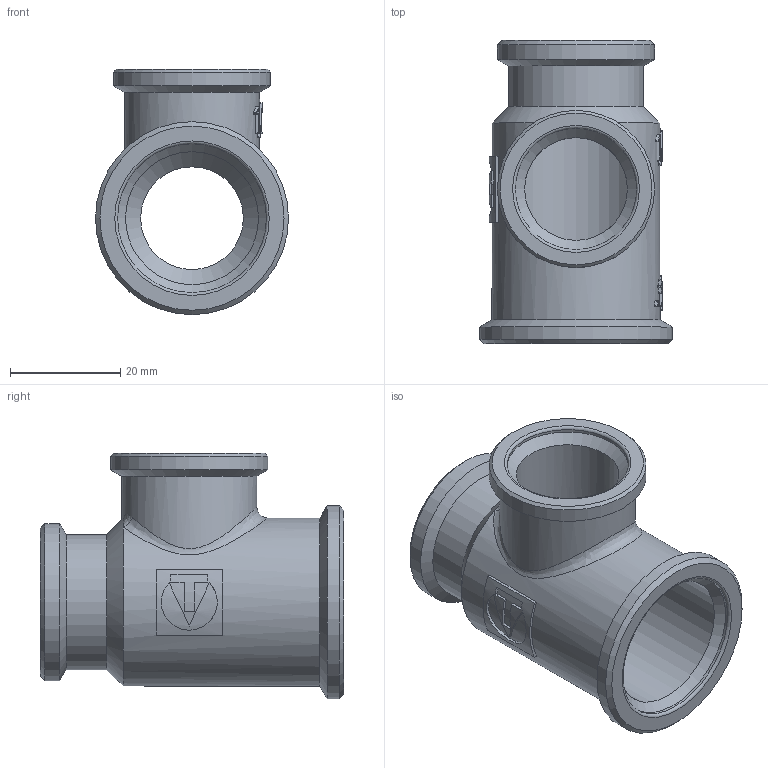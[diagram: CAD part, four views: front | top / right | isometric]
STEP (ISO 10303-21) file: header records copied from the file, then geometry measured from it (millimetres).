
FILE_DESCRIPTION(('STEP AP203'), '1');
FILE_NAME('ÂÐ.752243.014 - VTr.750.RN.050404 - Ôèò. ðåçüá. òðîé', '2024-07-15T10:00:25', ('Boss'), (''), 'C3D Converter', 'C3D Toolkit', '');
FILE_SCHEMA(('CONFIG_CONTROL_DESIGN'));
Length unit declared in the file: millimetre
Products named in the file (1): ВР.752243.014
Bounding box: 35 x 55 x 44.5 mm (x, y, z)
Volume: 17789 mm3; surface area: 11914.7 mm2
Topology: 1 solids, 1 shells, 331 faces, 914 edges, 601 vertices
Faces by surface type: extrusion 185, plane 98, cylinder 31, cone 11, torus 3, bspline 3
Full cylindrical faces by diameter (mm): 18.632 x2, 22 x2, 24.118 x1, 24.5 x2, 27 x1, 28.5 x2, 30.5 x1, 35 x1
Entity records: 15227 total; most frequent: CARTESIAN_POINT 7909, ORIENTED_EDGE 1772, DIRECTION 932, EDGE_CURVE 886, VERTEX_POINT 601, B_SPLINE_CURVE_WITH_KNOTS 567, VECTOR 502, EDGE_LOOP 379
